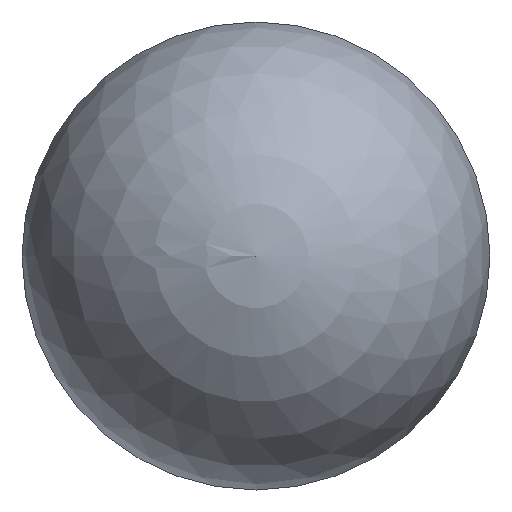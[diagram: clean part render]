
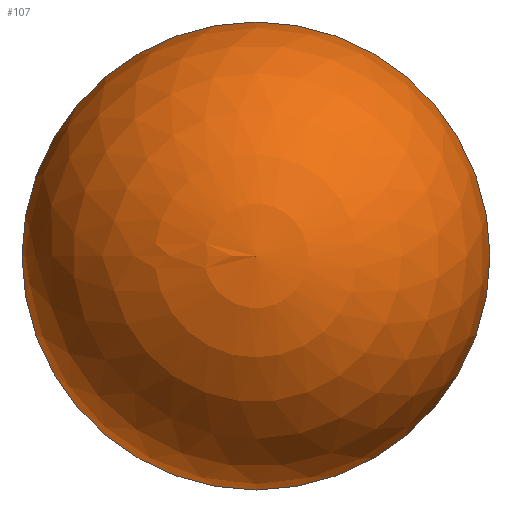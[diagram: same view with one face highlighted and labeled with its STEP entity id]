
A CAD part, left-side view. The second image highlights one B-rep face of the part: STEP entity #107.
In plain terms, the highlighted spherical face has radius 6 mm.
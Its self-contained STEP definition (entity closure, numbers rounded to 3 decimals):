
#95=SPHERICAL_SURFACE('',#187,6.);
#101=FACE_OUTER_BOUND('',#134,.T.);
#107=ADVANCED_FACE('',(#101),#95,.T.);
#134=EDGE_LOOP('',(#148));
#148=ORIENTED_EDGE('',*,*,#166,.T.);
#159=VERTEX_POINT('',#241);
#166=EDGE_CURVE('',#159,#159,#173,.T.);
#173=CIRCLE('',#186,6.);
#186=AXIS2_PLACEMENT_3D('',#240,#214,#215);
#187=AXIS2_PLACEMENT_3D('',#242,#216,#217);
#214=DIRECTION('',(-1.,0.,0.));
#215=DIRECTION('',(0.,-1.,0.));
#216=DIRECTION('',(-1.,0.,0.));
#217=DIRECTION('',(0.,1.,0.));
#240=CARTESIAN_POINT('',(7857.76,6110.285,0.));
#241=CARTESIAN_POINT('',(7857.76,6104.285,0.));
#242=CARTESIAN_POINT('',(7857.76,6110.285,0.));
